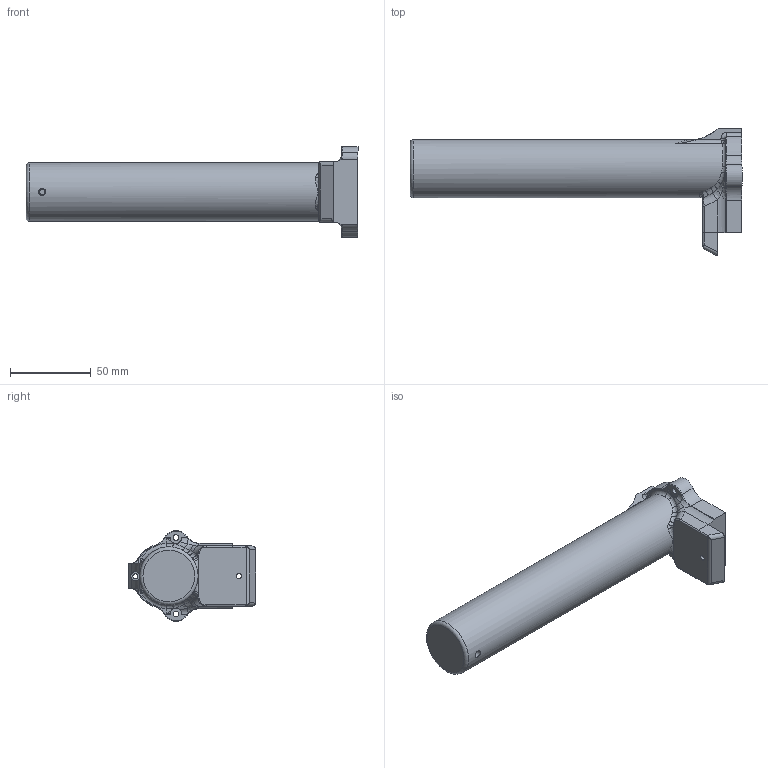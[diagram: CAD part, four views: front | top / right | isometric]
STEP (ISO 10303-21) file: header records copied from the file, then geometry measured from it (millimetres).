
FILE_DESCRIPTION(/* description */ (''),/* implementation_level */ '2;1');
FILE_NAME(/* name */ 'D:/Pew Pews/FGC-9_MkII_Stingray_Edition/Stingray edition/.step files/3 - Buffer Tube and Stock/3. Default FGC-9 mk2 buffer tube and stock/Buffer Tube Assembly.step',/* time_stamp */ '2022-05-23T19:32:09-06:00',/* author */ (''),/* organization */ (''),/* preprocessor_version */ 'ST-DEVELOPER v18.1',/* originating_system */ 'Autodesk Translation Framework v10.10.0.1391',/* authorisation */ '');
FILE_SCHEMA (('AUTOMOTIVE_DESIGN { 1 0 10303 214 3 1 1 }'));
Length unit declared in the file: millimetre
Products named in the file (3): Buffer Tube Assembly; Buffer Tube; Secondary Buffer Spring OD17mm L80mm +-10mm, Wire 2mm +-0.6
Assembly tree (2 placements, depth 2):
  Buffer Tube Assembly
    Buffer Tube
    Secondary Buffer Spring OD17mm L80mm +-10mm, Wire 2mm +-0.6
Bounding box: 205 x 78.88 x 56.18 mm (x, y, z)
Volume: 157390.4 mm3; surface area: 48907.4 mm2
Topology: 2 solids, 2 shells, 135 faces, 337 edges, 204 vertices
Faces by surface type: cylinder 50, bspline 46, plane 25, torus 13, cone 1
Full cylindrical faces by diameter (mm): 3.1 x2, 3.4 x1, 3.5 x1, 3.55 x2, 4.4 x1, 5.7 x1, 17.2 x1, 26 x1, 36 x1
Entity records: 7669 total; most frequent: CARTESIAN_POINT 4628, ORIENTED_EDGE 662, DIRECTION 562, EDGE_CURVE 331, AXIS2_PLACEMENT_3D 235, VERTEX_POINT 204, EDGE_LOOP 147, FACE_OUTER_BOUND 135
